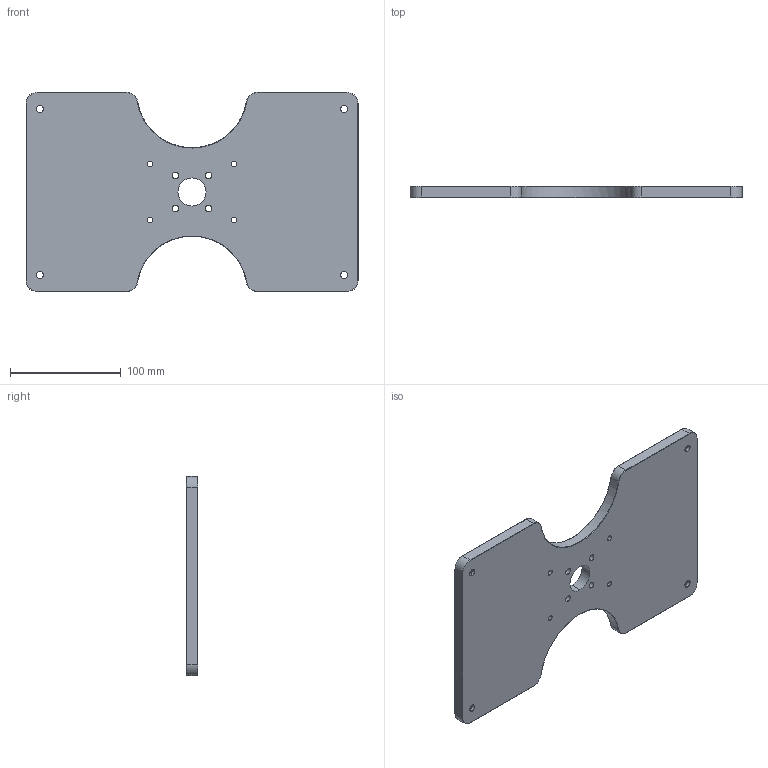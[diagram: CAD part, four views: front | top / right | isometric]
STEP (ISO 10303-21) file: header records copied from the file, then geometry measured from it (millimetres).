
FILE_DESCRIPTION (( 'STEP AP214' ), '1' );
FILE_NAME ('祥凄詩啣V3.STEP', '2026-05-08T06:37:49', ( '' ), ( '' ), 'SwSTEP 2.0', 'SolidWorks 2024', '' );
FILE_SCHEMA (( 'AUTOMOTIVE_DESIGN' ));
Length unit declared in the file: millimetre
Products named in the file (1): 不锈钢板V3
Bounding box: 300 x 10 x 180 mm (x, y, z)
Volume: 449848.6 mm3; surface area: 103768.1 mm2
Topology: 1 solids, 1 shells, 91 faces, 222 edges, 137 vertices
Faces by surface type: cylinder 45, plane 24, cone 22
Entity records: 2760 total; most frequent: DIRECTION 519, CARTESIAN_POINT 451, ORIENTED_EDGE 444, EDGE_CURVE 222, AXIS2_PLACEMENT_3D 205, VERTEX_POINT 137, EDGE_LOOP 121, CIRCLE 113
